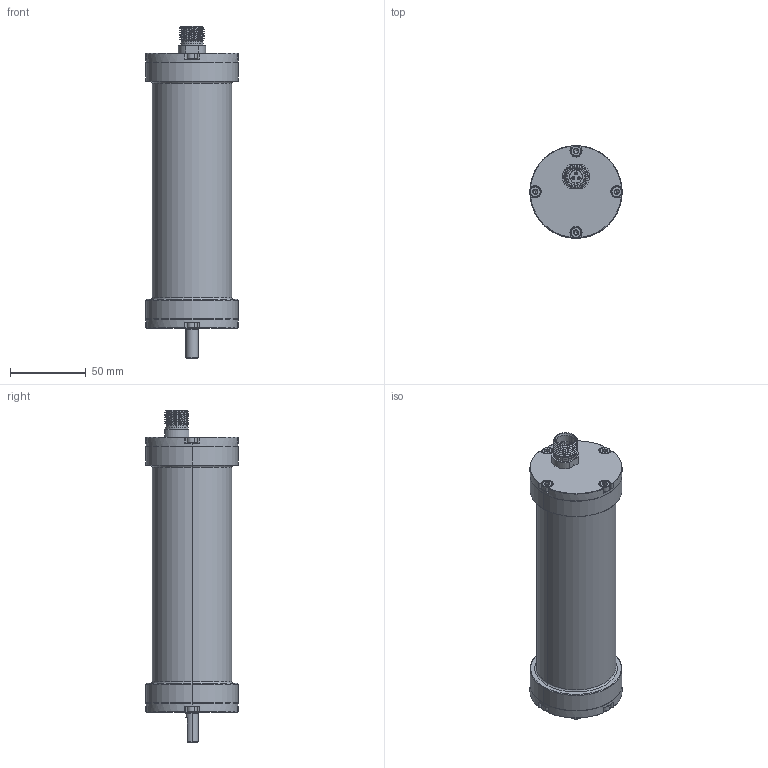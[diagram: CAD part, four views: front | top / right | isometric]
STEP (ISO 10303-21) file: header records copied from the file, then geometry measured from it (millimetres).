
FILE_DESCRIPTION (( 'STEP AP203' ), '1' );
FILE_NAME ('GRM-1XXX Gearmotor.STEP', '2026-02-23T22:57:02', ( '' ), ( '' ), 'SwSTEP 2.0', 'SolidWorks 2024', '' );
FILE_SCHEMA (( 'CONFIG_CONTROL_DESIGN' ));
Length unit declared in the file: millimetre
Products named in the file (1): GRM-1XXX Gearmotor
Bounding box: 61 x 61 x 219.75 mm (x, y, z)
Volume: 423812 mm3; surface area: 44308.4 mm2
Topology: 1 solids, 14 shells, 904 faces, 2312 edges, 1423 vertices
Faces by surface type: cylinder 456, cone 175, plane 160, torus 86, bspline 27
Entity records: 44452 total; most frequent: CARTESIAN_POINT 24175, ORIENTED_EDGE 4544, DIRECTION 4063, EDGE_CURVE 2272, AXIS2_PLACEMENT_3D 1647, VERTEX_POINT 1423, EDGE_LOOP 951, ADVANCED_FACE 904
